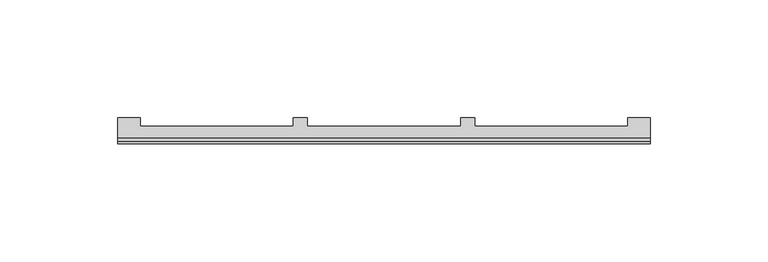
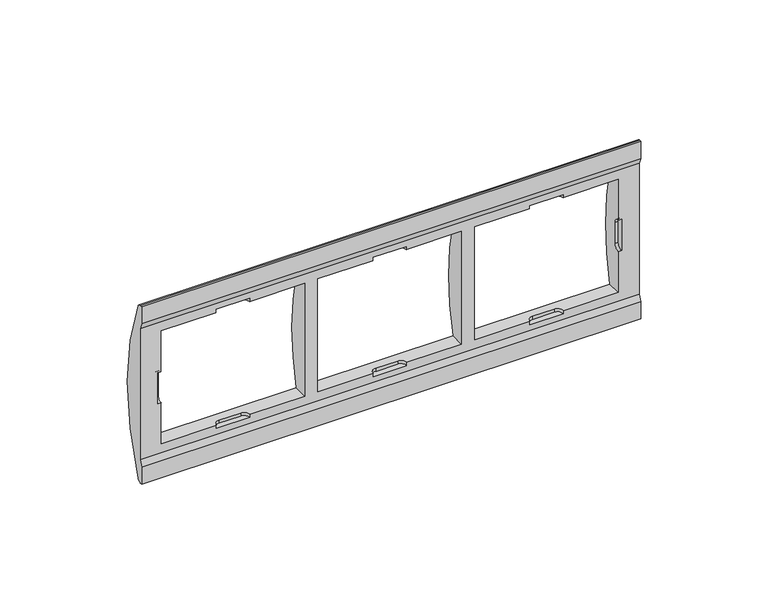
"""IFC4 building model written with IfcOpenShell, lengths in millimetres: proxy geometry, Iris_AceroNeptuno : Marco 3 Elementos."""

from ifc_helpers import new_model, si_unit, frame, origin, place, context, project, spatial, polyline, circle_curve, source, transform, mapped, element, save
from ifc_brep_helpers import plane_surface, cylinder_surface, revolved_surface, advanced_brep


def electrical_fixtures_f0d2c268(model_context):
    return source(origin(), model_context, "Body", "AdvancedBrep", [
        advanced_brep(
        [(-58.7, 100.0, 957.5), (-58.7, 100.0, 965.7230531), (-58.7, 101.0, 968.6297767), (-58.7, 101.0, 1031.3702233), (-58.7, 100.0, 1034.2769469), (-58.7, 100.0, 1042.5), (-58.7, 100.7901352, 1042.5), (-58.7, 102.6322532, 1041.2788462), (-58.7, 102.6322532, 958.7211538), (-58.7, 100.7901352, 957.5), (167.3, 100.0, 957.5), (167.3, 100.7901352, 957.5), (167.3, 102.6322532, 958.7211538), (167.3, 102.6322532, 1041.2788462), (167.3, 100.7901352, 1042.5), (167.3, 100.0, 1042.5), (167.3, 100.0, 1034.2769469), (167.3, 101.0, 1031.3702233), (167.3, 101.0, 968.6297767), (167.3, 100.0, 965.7230531), (157.8, 111.0, 1000.0), (157.8, 107.5036585, 1027.0), (92.8, 107.5036585, 1027.0), (92.8, 111.0, 1000.0), (92.8, 107.5036585, 973.0), (157.8, 107.5036585, 973.0), (86.8, 111.0, 1000.0), (86.8, 107.5036585, 1027.0), (21.8, 107.5036585, 1027.0), (21.8, 111.0, 1000.0), (21.8, 107.5036585, 973.0), (86.8, 107.5036585, 973.0), (15.8, 111.0, 1000.0), (15.8, 107.5036585, 1027.0), (-49.2, 107.5036585, 1027.0), (-49.2, 111.0, 1000.0), (-49.2, 107.5036585, 973.0), (15.8, 107.5036585, 973.0), (159.3, 101.0, 1007.5), (159.3, 103.5, 1005.0), (159.3, 103.5, 995.0), (159.3, 101.0, 992.5), (157.8, 101.0, 1007.5), (157.8, 103.5, 1005.0), (157.8, 103.5, 995.0), (157.8, 101.0, 992.5), (-50.7, 101.0, 992.5), (-50.7, 103.5, 995.0), (-50.7, 103.5, 1005.0), (-50.7, 101.0, 1007.5), (-49.2, 103.5, 1005.0), (-49.2, 101.0, 1007.5), (-49.2, 103.5, 995.0), (-49.2, 101.0, 992.5), (157.8, 101.0, 973.0), (132.8, 101.0, 973.0), (132.8, 101.0, 971.5), (117.8, 101.0, 971.5), (117.8, 101.0, 973.0), (92.8, 101.0, 973.0), (92.8, 101.0, 1027.0), (117.8, 101.0, 1027.0), (117.8, 101.0, 1028.5), (132.8, 101.0, 1028.5), (132.8, 101.0, 1027.0), (157.8, 101.0, 1027.0), (-49.2, 101.0, 1027.0), (-24.2, 101.0, 1027.0), (-24.2, 101.0, 1028.5), (-9.2, 101.0, 1028.5), (-9.2, 101.0, 1027.0), (15.8, 101.0, 1027.0), (15.8, 101.0, 973.0), (-9.2, 101.0, 973.0), (-9.2, 101.0, 971.5), (-24.2, 101.0, 971.5), (-24.2, 101.0, 973.0), (-49.2, 101.0, 973.0), (46.8, 101.0, 1028.5), (61.8, 101.0, 1028.5), (61.8, 101.0, 1027.0), (86.8, 101.0, 1027.0), (86.8, 101.0, 973.0), (61.8, 101.0, 973.0), (61.8, 101.0, 971.5), (46.8, 101.0, 971.5), (46.8, 101.0, 973.0), (21.8, 101.0, 973.0), (21.8, 101.0, 1027.0), (46.8, 101.0, 1027.0), (130.3, 103.5, 971.5), (120.3, 103.5, 971.5), (120.3, 103.5, 973.0), (130.3, 103.5, 973.0), (120.3, 103.5, 1028.5), (130.3, 103.5, 1028.5), (120.3, 103.5, 1027.0), (130.3, 103.5, 1027.0), (49.3, 103.5, 1028.5), (59.3, 103.5, 1028.5), (49.3, 103.5, 1027.0), (59.3, 103.5, 1027.0), (59.3, 103.5, 971.5), (49.3, 103.5, 971.5), (49.3, 103.5, 973.0), (59.3, 103.5, 973.0), (-21.7, 103.5, 1028.5), (-11.7, 103.5, 1028.5), (-21.7, 103.5, 1027.0), (-11.7, 103.5, 1027.0), (-11.7, 103.5, 971.5), (-21.7, 103.5, 971.5), (-21.7, 103.5, 973.0), (-11.7, 103.5, 973.0)],
        [
            (0, 1),
            (1, 2, circle_curve(frame((-58.7, 5.0909091, 1000.0), z_axis=(1.0, 0.0, 0.0), x_axis=(0.0, 0.0, 1.0)), 100.9090909)),
            (2, 3),
            (3, 4, circle_curve(frame((-58.7, 5.0909091, 1000.0), z_axis=(1.0, 0.0, 0.0), x_axis=(0.0, 0.0, 1.0)), 100.9090909)),
            (4, 5),
            (5, 6),
            (6, 7, circle_curve(frame((-58.7, 100.7901352, 1040.5), z_axis=(-1.0, 0.0, 0.0), x_axis=(0.0, 0.0, 1.0)), 2.0)),
            (7, 8, circle_curve(frame((-58.7, 5.0, 1000.0), z_axis=(-1.0, 0.0, 0.0), x_axis=(0.0, 0.0, 1.0)), 106.0)),
            (8, 9, circle_curve(frame((-58.7, 100.7901352, 959.5), z_axis=(-1.0, 0.0, 0.0), x_axis=(0.0, 0.0, 1.0)), 2.0)),
            (9, 0),
            (10, 11),
            (11, 12, circle_curve(frame((167.3, 100.7901352, 959.5), z_axis=(1.0, 0.0, 0.0), x_axis=(0.0, 0.0, 1.0)), 2.0)),
            (12, 13, circle_curve(frame((167.3, 5.0, 1000.0), z_axis=(1.0, 0.0, 0.0), x_axis=(0.0, 0.0, 1.0)), 106.0)),
            (13, 14, circle_curve(frame((167.3, 100.7901352, 1040.5), z_axis=(1.0, 0.0, 0.0), x_axis=(0.0, 0.0, 1.0)), 2.0)),
            (14, 15),
            (15, 16),
            (16, 17, circle_curve(frame((167.3, 5.0909091, 1000.0), z_axis=(-1.0, 0.0, 0.0), x_axis=(0.0, 0.0, 1.0)), 100.9090909)),
            (17, 18),
            (18, 19, circle_curve(frame((167.3, 5.0909091, 1000.0), z_axis=(-1.0, 0.0, 0.0), x_axis=(0.0, 0.0, 1.0)), 100.9090909)),
            (19, 10),
            (0, 10),
            (19, 1),
            (7, 13),
            (12, 8),
            (20, 21, circle_curve(frame((157.8, 5.0, 1000.0), z_axis=(1.0, 0.0, 0.0), x_axis=(0.0, 0.0, 1.0)), 106.0)),
            (21, 22),
            (22, 23, circle_curve(frame((92.8, 5.0, 1000.0), z_axis=(-1.0, 0.0, 0.0), x_axis=(0.0, 0.0, 1.0)), 106.0)),
            (23, 24, circle_curve(frame((92.8, 5.0, 1000.0), z_axis=(-1.0, 0.0, 0.0), x_axis=(0.0, 0.0, 1.0)), 106.0)),
            (24, 25),
            (25, 20, circle_curve(frame((157.8, 5.0, 1000.0), z_axis=(1.0, 0.0, 0.0), x_axis=(0.0, 0.0, 1.0)), 106.0)),
            (26, 27, circle_curve(frame((86.8, 5.0, 1000.0), z_axis=(1.0, 0.0, 0.0), x_axis=(0.0, 0.0, 1.0)), 106.0)),
            (27, 28),
            (28, 29, circle_curve(frame((21.8, 5.0, 1000.0), z_axis=(-1.0, 0.0, 0.0), x_axis=(0.0, 0.0, 1.0)), 106.0)),
            (29, 30, circle_curve(frame((21.8, 5.0, 1000.0), z_axis=(-1.0, 0.0, 0.0), x_axis=(0.0, 0.0, 1.0)), 106.0)),
            (30, 31),
            (31, 26, circle_curve(frame((86.8, 5.0, 1000.0), z_axis=(1.0, 0.0, 0.0), x_axis=(0.0, 0.0, 1.0)), 106.0)),
            (32, 33, circle_curve(frame((15.8, 5.0, 1000.0), z_axis=(1.0, 0.0, 0.0), x_axis=(0.0, 0.0, 1.0)), 106.0)),
            (33, 34),
            (34, 35, circle_curve(frame((-49.2, 5.0, 1000.0), z_axis=(-1.0, 0.0, 0.0), x_axis=(0.0, 0.0, 1.0)), 106.0)),
            (35, 36, circle_curve(frame((-49.2, 5.0, 1000.0), z_axis=(-1.0, 0.0, 0.0), x_axis=(0.0, 0.0, 1.0)), 106.0)),
            (36, 37),
            (37, 32, circle_curve(frame((15.8, 5.0, 1000.0), z_axis=(1.0, 0.0, 0.0), x_axis=(0.0, 0.0, 1.0)), 106.0)),
            (5, 15),
            (14, 6),
            (9, 11),
            (38, 39, circle_curve(frame((159.3, 101.0, 1005.0), z_axis=(-1.0, 0.0, 0.0), x_axis=(0.0, 0.0, -1.0)), 2.5)),
            (39, 40),
            (40, 41, circle_curve(frame((159.3, 101.0, 995.0), z_axis=(-1.0, 0.0, 0.0), x_axis=(0.0, 0.0, -1.0)), 2.5)),
            (41, 38),
            (38, 42),
            (42, 43, circle_curve(frame((157.8, 101.0, 1005.0), z_axis=(-1.0, 0.0, 0.0), x_axis=(0.0, 0.0, -1.0)), 2.5)),
            (43, 39),
            (43, 44),
            (44, 40),
            (44, 45, circle_curve(frame((157.8, 101.0, 995.0), z_axis=(-1.0, 0.0, 0.0), x_axis=(0.0, 0.0, -1.0)), 2.5)),
            (45, 41),
            (46, 47, circle_curve(frame((-50.7, 101.0, 995.0), z_axis=(1.0, 0.0, 0.0), x_axis=(0.0, 0.0, -1.0)), 2.5)),
            (47, 48),
            (48, 49, circle_curve(frame((-50.7, 101.0, 1005.0), z_axis=(1.0, 0.0, 0.0), x_axis=(0.0, 0.0, -1.0)), 2.5)),
            (49, 46),
            (48, 50),
            (50, 51, circle_curve(frame((-49.2, 101.0, 1005.0), z_axis=(1.0, 0.0, 0.0), x_axis=(0.0, 0.0, -1.0)), 2.5)),
            (51, 49),
            (47, 52),
            (52, 50),
            (46, 53),
            (53, 52, circle_curve(frame((-49.2, 101.0, 995.0), z_axis=(1.0, 0.0, 0.0), x_axis=(0.0, 0.0, -1.0)), 2.5)),
            (18, 2),
            (17, 3),
            (45, 54),
            (54, 55),
            (55, 56),
            (56, 57),
            (57, 58),
            (58, 59),
            (59, 60),
            (60, 61),
            (61, 62),
            (62, 63),
            (63, 64),
            (64, 65),
            (65, 42),
            (51, 66),
            (66, 67),
            (67, 68),
            (68, 69),
            (69, 70),
            (70, 71),
            (71, 72),
            (72, 73),
            (73, 74),
            (74, 75),
            (75, 76),
            (76, 77),
            (77, 53),
            (78, 79),
            (79, 80),
            (80, 81),
            (81, 82),
            (82, 83),
            (83, 84),
            (84, 85),
            (85, 86),
            (86, 87),
            (87, 88),
            (88, 89),
            (89, 78),
            (16, 4),
            (56, 90, circle_curve(frame((130.3, 101.0, 971.5), z_axis=(0.0, 0.0, 1.0), x_axis=(1.0, 0.0, 0.0)), 2.5)),
            (90, 91),
            (91, 57, circle_curve(frame((120.3, 101.0, 971.5), z_axis=(0.0, 0.0, 1.0), x_axis=(1.0, 0.0, 0.0)), 2.5)),
            (91, 92),
            (92, 58, circle_curve(frame((120.3, 101.0, 973.0), z_axis=(0.0, 0.0, 1.0), x_axis=(1.0, 0.0, 0.0)), 2.5)),
            (90, 93),
            (93, 92),
            (55, 93, circle_curve(frame((130.3, 101.0, 973.0), z_axis=(0.0, 0.0, 1.0), x_axis=(1.0, 0.0, 0.0)), 2.5)),
            (62, 94, circle_curve(frame((120.3, 101.0, 1028.5), z_axis=(0.0, 0.0, -1.0), x_axis=(1.0, 0.0, 0.0)), 2.5)),
            (94, 95),
            (95, 63, circle_curve(frame((130.3, 101.0, 1028.5), z_axis=(0.0, 0.0, -1.0), x_axis=(1.0, 0.0, 0.0)), 2.5)),
            (61, 96, circle_curve(frame((120.3, 101.0, 1027.0), z_axis=(0.0, 0.0, -1.0), x_axis=(1.0, 0.0, 0.0)), 2.5)),
            (96, 94),
            (96, 97),
            (97, 95),
            (97, 64, circle_curve(frame((130.3, 101.0, 1027.0), z_axis=(0.0, 0.0, -1.0), x_axis=(1.0, 0.0, 0.0)), 2.5)),
            (78, 98, circle_curve(frame((49.3, 101.0, 1028.5), z_axis=(0.0, 0.0, -1.0), x_axis=(-1.0, 0.0, 0.0)), 2.5)),
            (98, 99),
            (99, 79, circle_curve(frame((59.3, 101.0, 1028.5), z_axis=(0.0, 0.0, -1.0), x_axis=(-1.0, 0.0, 0.0)), 2.5)),
            (89, 100, circle_curve(frame((49.3, 101.0, 1027.0), z_axis=(0.0, 0.0, -1.0), x_axis=(-1.0, 0.0, 0.0)), 2.5)),
            (100, 98),
            (100, 101),
            (101, 99),
            (101, 80, circle_curve(frame((59.3, 101.0, 1027.0), z_axis=(0.0, 0.0, -1.0), x_axis=(-1.0, 0.0, 0.0)), 2.5)),
            (84, 102, circle_curve(frame((59.3, 101.0, 971.5), z_axis=(0.0, 0.0, 1.0), x_axis=(-1.0, 0.0, 0.0)), 2.5)),
            (102, 103),
            (103, 85, circle_curve(frame((49.3, 101.0, 971.5), z_axis=(0.0, 0.0, 1.0), x_axis=(-1.0, 0.0, 0.0)), 2.5)),
            (103, 104),
            (104, 86, circle_curve(frame((49.3, 101.0, 973.0), z_axis=(0.0, 0.0, 1.0), x_axis=(-1.0, 0.0, 0.0)), 2.5)),
            (102, 105),
            (105, 104),
            (83, 105, circle_curve(frame((59.3, 101.0, 973.0), z_axis=(0.0, 0.0, 1.0), x_axis=(-1.0, 0.0, 0.0)), 2.5)),
            (68, 106, circle_curve(frame((-21.7, 101.0, 1028.5), z_axis=(0.0, 0.0, -1.0), x_axis=(-1.0, 0.0, 0.0)), 2.5)),
            (106, 107),
            (107, 69, circle_curve(frame((-11.7, 101.0, 1028.5), z_axis=(0.0, 0.0, -1.0), x_axis=(-1.0, 0.0, 0.0)), 2.5)),
            (67, 108, circle_curve(frame((-21.7, 101.0, 1027.0), z_axis=(0.0, 0.0, -1.0), x_axis=(-1.0, 0.0, 0.0)), 2.5)),
            (108, 106),
            (108, 109),
            (109, 107),
            (109, 70, circle_curve(frame((-11.7, 101.0, 1027.0), z_axis=(0.0, 0.0, -1.0), x_axis=(-1.0, 0.0, 0.0)), 2.5)),
            (74, 110, circle_curve(frame((-11.7, 101.0, 971.5), z_axis=(0.0, 0.0, 1.0), x_axis=(-1.0, 0.0, 0.0)), 2.5)),
            (110, 111),
            (111, 75, circle_curve(frame((-21.7, 101.0, 971.5), z_axis=(0.0, 0.0, 1.0), x_axis=(-1.0, 0.0, 0.0)), 2.5)),
            (111, 112),
            (112, 76, circle_curve(frame((-21.7, 101.0, 973.0), z_axis=(0.0, 0.0, 1.0), x_axis=(-1.0, 0.0, 0.0)), 2.5)),
            (110, 113),
            (113, 112),
            (73, 113, circle_curve(frame((-11.7, 101.0, 973.0), z_axis=(0.0, 0.0, 1.0), x_axis=(-1.0, 0.0, 0.0)), 2.5)),
            (65, 21),
            (25, 54),
            (59, 24),
            (22, 60),
            (81, 27),
            (31, 82),
            (87, 30),
            (28, 88),
            (71, 33),
            (37, 72),
            (77, 36),
            (34, 66),
        ],
        [
            plane_surface(frame((-58.7, 100.0, 1045.0), z_axis=(-1.0, 0.0, 0.0), x_axis=(0.0, 0.0, 1.0))),
            plane_surface(frame((167.3, 100.0, 1045.0), z_axis=(1.0, 0.0, 0.0), x_axis=(0.0, 0.0, -1.0))),
            plane_surface(frame((-58.7, 100.0, 957.5), z_axis=(0.0, -1.0, 0.0), x_axis=(1.0, 0.0, 0.0))),
            cylinder_surface(frame((167.3, 5.0, 1000.0), z_axis=(-1.0, 0.0, 0.0), x_axis=(0.0, 0.0, 1.0)), 106.0),
            plane_surface(frame((-58.7, 100.0, 1042.5), z_axis=(0.0, 0.0, 1.0), x_axis=(1.0, 0.0, 0.0))),
            plane_surface(frame((-58.7, 100.7901352, 957.5), z_axis=(0.0, 0.0, -1.0), x_axis=(1.0, 0.0, 0.0))),
            plane_surface(frame((159.3, 100.0, 1045.0), z_axis=(-1.0, 0.0, 0.0), x_axis=(0.0, 0.0, -1.0))),
            revolved_surface(polyline([(157.8, 101.0, 1002.5), (159.3, 101.0, 1002.5)]), (159.3, 101.0, 1005.0), (-1.0, 0.0, 0.0)),
            plane_surface(frame((153.8, 103.5, 1005.0), z_axis=(0.0, -1.0, 0.0), x_axis=(1.0, 0.0, 0.0))),
            revolved_surface(polyline([(157.8, 101.0, 992.5), (159.3, 101.0, 992.5)]), (159.3, 101.0, 995.0), (-1.0, 0.0, 0.0)),
            plane_surface(frame((-50.7, 101.0, 992.5), z_axis=(1.0, 0.0, 0.0), x_axis=(0.0, -1.0, 0.0))),
            revolved_surface(polyline([(-49.2, 101.0, 1002.5), (-50.7, 101.0, 1002.5)]), (-50.7, 101.0, 1005.0), (1.0, 0.0, 0.0)),
            plane_surface(frame((-45.2, 103.5, 995.0), z_axis=(0.0, -1.0, 0.0), x_axis=(-1.0, 0.0, 0.0))),
            revolved_surface(polyline([(-49.2, 101.0, 992.5), (-50.7, 101.0, 992.5)]), (-50.7, 101.0, 995.0), (1.0, 0.0, 0.0)),
            revolved_surface(polyline([(167.3, 5.0909091, 1100.9090909), (-58.69999999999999, 5.0909091, 1100.9090909)]), (167.3, 5.0909091, 1000.0), (1.0, 0.0, 0.0)),
            plane_surface(frame((-58.7, 101.0, 968.6297767), z_axis=(0.0, -1.0, 0.0), x_axis=(1.0, 0.0, 0.0))),
            plane_surface(frame((-58.7, 100.0, 1034.2769469), z_axis=(0.0, -1.0, 0.0), x_axis=(1.0, 0.0, 0.0))),
            plane_surface(frame((80.3, 100.0, 971.5), z_axis=(0.0, 0.0, 1.0), x_axis=(-1.0, 0.0, 0.0))),
            revolved_surface(polyline([(122.8, 101.0, 971.5), (122.8, 101.0, 973.0)]), (120.3, 101.0, 979.0), (0.0, 0.0, -1.0)),
            plane_surface(frame((120.3, 103.5, 971.5), z_axis=(0.0, -1.0, 0.0), x_axis=(0.0, 0.0, 1.0))),
            revolved_surface(polyline([(132.8, 101.0, 971.5), (132.8, 101.0, 973.0)]), (130.3, 101.0, 979.0), (0.0, 0.0, -1.0)),
            plane_surface(frame((132.8, 120.0298457, 1028.5), z_axis=(0.0, 0.0, -1.0), x_axis=(0.0, 1.0, 0.0))),
            revolved_surface(polyline([(122.8, 101.0, 1028.5), (122.8, 101.0, 1027.0)]), (120.3, 101.0, 1021.0), (0.0, 0.0, 1.0)),
            plane_surface(frame((130.3, 103.5, 1028.5), z_axis=(0.0, -1.0, 0.0), x_axis=(0.0, 0.0, -1.0))),
            revolved_surface(polyline([(132.8, 101.0, 1028.5), (132.8, 101.0, 1027.0)]), (130.3, 101.0, 1021.0), (0.0, 0.0, 1.0)),
            plane_surface(frame((61.8, 101.0, 1028.5), z_axis=(0.0, 0.0, -1.0), x_axis=(0.0, 1.0, 0.0))),
            revolved_surface(polyline([(46.8, 101.0, 1028.5), (46.8, 101.0, 1027.0)]), (49.3, 101.0, 1021.0), (0.0, 0.0, 1.0)),
            plane_surface(frame((59.3, 103.5, 1028.5), z_axis=(0.0, -1.0, 0.0), x_axis=(0.0, 0.0, -1.0))),
            revolved_surface(polyline([(56.8, 101.0, 1028.5), (56.8, 101.0, 1027.0)]), (59.3, 101.0, 1021.0), (0.0, 0.0, 1.0)),
            plane_surface(frame((46.8, 100.0, 971.5), z_axis=(0.0, 0.0, 1.0), x_axis=(-1.0, 0.0, 0.0))),
            revolved_surface(polyline([(46.8, 101.0, 971.5), (46.8, 101.0, 973.0)]), (49.3, 101.0, 979.0), (0.0, 0.0, -1.0)),
            plane_surface(frame((49.3, 103.5, 971.5), z_axis=(0.0, -1.0, 0.0), x_axis=(0.0, 0.0, 1.0))),
            revolved_surface(polyline([(56.8, 101.0, 971.5), (56.8, 101.0, 973.0)]), (59.3, 101.0, 979.0), (0.0, 0.0, -1.0)),
            plane_surface(frame((-9.2, 101.0, 1028.5), z_axis=(0.0, 0.0, -1.0), x_axis=(0.0, 1.0, 0.0))),
            revolved_surface(polyline([(-24.2, 101.0, 1028.5), (-24.2, 101.0, 1027.0)]), (-21.7, 101.0, 1021.0), (0.0, 0.0, 1.0)),
            plane_surface(frame((-11.7, 103.5, 1028.5), z_axis=(0.0, -1.0, 0.0), x_axis=(0.0, 0.0, -1.0))),
            revolved_surface(polyline([(-14.2, 101.0, 1028.5), (-14.2, 101.0, 1027.0)]), (-11.7, 101.0, 1021.0), (0.0, 0.0, 1.0)),
            plane_surface(frame((-24.2, 100.0, 971.5), z_axis=(0.0, 0.0, 1.0), x_axis=(-1.0, 0.0, 0.0))),
            revolved_surface(polyline([(-24.2, 101.0, 971.5), (-24.2, 101.0, 973.0)]), (-21.7, 101.0, 979.0), (0.0, 0.0, -1.0)),
            plane_surface(frame((-21.7, 103.5, 971.5), z_axis=(0.0, -1.0, 0.0), x_axis=(0.0, 0.0, 1.0))),
            revolved_surface(polyline([(-14.2, 101.0, 971.5), (-14.2, 101.0, 973.0)]), (-11.7, 101.0, 979.0), (0.0, 0.0, -1.0)),
            plane_surface(frame((157.8, 94.1055079, 973.0), z_axis=(-1.0, 0.0, 0.0), x_axis=(0.0, 1.0, 0.0))),
            plane_surface(frame((92.8, 94.1055079, 973.0), z_axis=(1.0, 0.0, 0.0), x_axis=(0.0, -1.0, 0.0))),
            plane_surface(frame((157.8, 111.0, 1027.0), z_axis=(0.0, 0.0, -1.0), x_axis=(-1.0, 0.0, 0.0))),
            plane_surface(frame((157.8, 100.0, 973.0), z_axis=(0.0, 0.0, 1.0), x_axis=(-1.0, 0.0, 0.0))),
            plane_surface(frame((86.8, 94.1055079, 973.0), z_axis=(-1.0, 0.0, 0.0), x_axis=(0.0, 1.0, 0.0))),
            plane_surface(frame((21.8, 94.1055079, 973.0), z_axis=(1.0, 0.0, 0.0), x_axis=(0.0, -1.0, 0.0))),
            plane_surface(frame((86.8, 111.0, 1027.0), z_axis=(0.0, 0.0, -1.0), x_axis=(-1.0, 0.0, 0.0))),
            plane_surface(frame((86.8, 100.0, 973.0), z_axis=(0.0, 0.0, 1.0), x_axis=(-1.0, 0.0, 0.0))),
            plane_surface(frame((15.8, 100.0, 973.0), z_axis=(-1.0, 0.0, 0.0), x_axis=(0.0, 1.0, 0.0))),
            plane_surface(frame((-49.2, 100.0, 973.0), z_axis=(1.0, 0.0, 0.0), x_axis=(0.0, -1.0, 0.0))),
            plane_surface(frame((15.8, 111.0, 1027.0), z_axis=(0.0, 0.0, -1.0), x_axis=(-1.0, 0.0, 0.0))),
            plane_surface(frame((15.8, 100.0, 973.0), z_axis=(0.0, 0.0, 1.0), x_axis=(-1.0, 0.0, 0.0))),
            cylinder_surface(frame((167.3, 100.7901352, 1040.5), z_axis=(-1.0, 0.0, 0.0), x_axis=(0.0, 0.0, 1.0)), 2.0),
            cylinder_surface(frame((167.3, 100.7901352, 959.5), z_axis=(-1.0, 0.0, 0.0), x_axis=(0.0, 0.0, 1.0)), 2.0),
        ],
        [
            (0, [[1, 2, 3, 4, 5, 6, 7, 8, 9, 10]]),
            (1, [[11, 12, 13, 14, 15, 16, 17, 18, 19, 20]]),
            (2, [[-1, 21, -20, 22]]),
            (3, [[-8, 23, -13, 24], [25, 26, 27, 28, 29, 30], [31, 32, 33, 34, 35, 36], [37, 38, 39, 40, 41, 42]]),
            (4, [[-6, 43, -15, 44]]),
            (5, [[-10, 45, -11, -21]]),
            (6, [[46, 47, 48, 49]]),
            (7, [[-46, 50, 51, 52]]),
            (8, [[-47, -52, 53, 54]]),
            (9, [[-48, -54, 55, 56]]),
            (10, [[57, 58, 59, 60]]),
            (11, [[-59, 61, 62, 63]]),
            (12, [[-58, 64, 65, -61]]),
            (13, [[-57, 66, 67, -64]]),
            (14, [[-2, -22, -19, 68]]),
            (15, [[-3, -68, -18, 69], [-49, -56, 70, 71, 72, 73, 74, 75, 76, 77, 78, 79, 80, 81, 82, -50], [-60, -63, 83, 84, 85, 86, 87, 88, 89, 90, 91, 92, 93, 94, 95, -66], [96, 97, 98, 99, 100, 101, 102, 103, 104, 105, 106, 107]]),
            (14, [[-4, -69, -17, 108]]),
            (16, [[-5, -108, -16, -43]]),
            (17, [[109, 110, 111, -73]]),
            (18, [[-111, 112, 113, -74]]),
            (19, [[-110, 114, 115, -112]]),
            (20, [[-109, -72, 116, -114]]),
            (21, [[117, 118, 119, -79]]),
            (22, [[-117, -78, 120, 121]]),
            (23, [[-118, -121, 122, 123]]),
            (24, [[-119, -123, 124, -80]]),
            (25, [[125, 126, 127, -96]]),
            (26, [[-125, -107, 128, 129]]),
            (27, [[-126, -129, 130, 131]]),
            (28, [[-127, -131, 132, -97]]),
            (29, [[133, 134, 135, -102]]),
            (30, [[-135, 136, 137, -103]]),
            (31, [[-134, 138, 139, -136]]),
            (32, [[-133, -101, 140, -138]]),
            (33, [[141, 142, 143, -86]]),
            (34, [[-141, -85, 144, 145]]),
            (35, [[-142, -145, 146, 147]]),
            (36, [[-143, -147, 148, -87]]),
            (37, [[149, 150, 151, -92]]),
            (38, [[-151, 152, 153, -93]]),
            (39, [[-150, 154, 155, -152]]),
            (40, [[-149, -91, 156, -154]]),
            (41, [[157, -25, -30, 158, -70, -55, -53, -51, -82]]),
            (42, [[159, -28, -27, 160, -76]]),
            (43, [[-157, -81, -124, -122, -120, -77, -160, -26]]),
            (44, [[-158, -29, -159, -75, -113, -115, -116, -71]]),
            (45, [[161, -31, -36, 162, -99]]),
            (46, [[163, -34, -33, 164, -105]]),
            (47, [[-161, -98, -132, -130, -128, -106, -164, -32]]),
            (48, [[-162, -35, -163, -104, -137, -139, -140, -100]]),
            (49, [[165, -37, -42, 166, -89]]),
            (50, [[167, -40, -39, 168, -83, -62, -65, -67, -95]]),
            (51, [[-165, -88, -148, -146, -144, -84, -168, -38]]),
            (52, [[-166, -41, -167, -94, -153, -155, -156, -90]]),
            (53, [[-7, -44, -14, -23]]),
            (54, [[-9, -24, -12, -45]]),
        ],
    ),
    ])


if __name__ == "__main__":
    model = new_model("IFC4")
    model_context = context("Model", 3, world=origin())
    ifc_project = project(units=[si_unit("LENGTHUNIT", "METRE", prefix="MILLI")], contexts=[model_context])
    site = spatial("IfcSite", under=ifc_project)
    building = spatial("IfcBuilding", under=site)
    placement = place(None, origin())
    electrical_fixtures_shape = electrical_fixtures_f0d2c268(model_context)
    element("IfcBuildingElementProxy", 1, Name="Iris_AceroNeptuno : Marco 3 Elementos", ObjectType="Iris_AceroNeptuno : Marco 3 Elementos", at=placement, inside=building, context=model_context, shape_type="MappedRepresentation", body=[
        mapped(electrical_fixtures_shape, transform((0.0, 0.0, 0.0), x_axis=(1.0, 0.0, 0.0), y_axis=(0.0, 1.0, 0.0), z_axis=(0.0, 0.0, 1.0))),
    ])
    save(model, "model.ifc")
